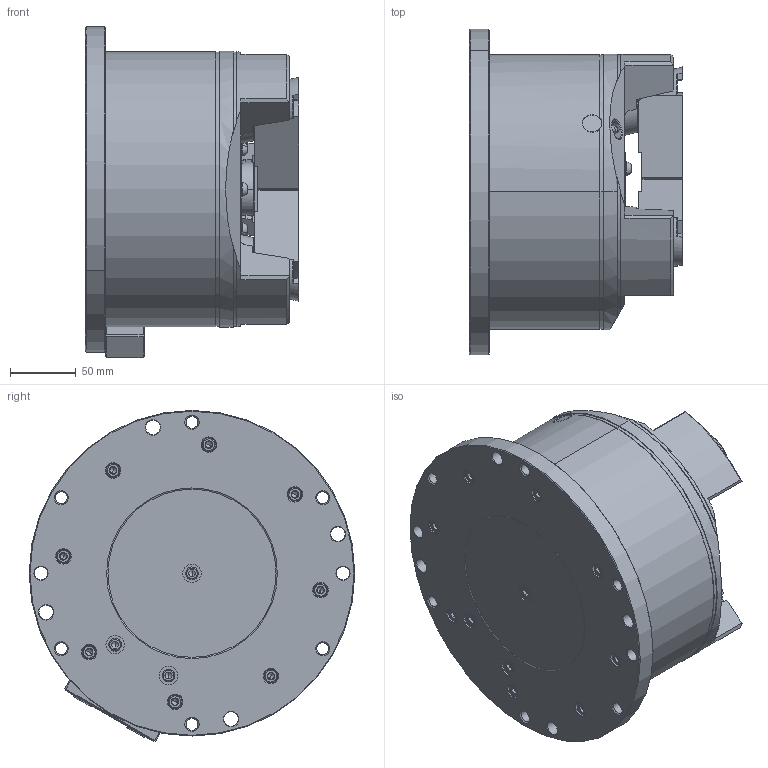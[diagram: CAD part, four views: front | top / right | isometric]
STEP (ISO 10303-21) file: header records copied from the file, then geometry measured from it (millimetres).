
FILE_DESCRIPTION (( 'STEP AP214' ), '1' );
FILE_NAME ('PLS08_OC.STEP', '2020-06-25T23:36:55', ( '' ), ( '' ), 'SwSTEP 2.0', 'SolidWorks 2017', '' );
FILE_SCHEMA (( 'AUTOMOTIVE_DESIGN' ));
Length unit declared in the file: millimetre
Products named in the file (4): 結合; 0030112030; 61P367087; PLS08_OC
Assembly tree (7 placements, depth 2):
  PLS08_OC
    61P367087  x3
    0030112030  x3
    結合
Bounding box: 162.5 x 248 x 252.19 mm (x, y, z)
Volume: 4619459.5 mm3; surface area: 287576 mm2
Topology: 7 solids, 15 shells, 1462 faces, 3593 edges, 2224 vertices
Faces by surface type: plane 653, cone 359, cylinder 244, bspline 173, torus 33
Entity records: 50525 total; most frequent: CARTESIAN_POINT 19813, ORIENTED_EDGE 6598, DIRECTION 5821, EDGE_CURVE 3299, VERTEX_POINT 2078, AXIS2_PLACEMENT_3D 2054, LINE 1713, VECTOR 1713
